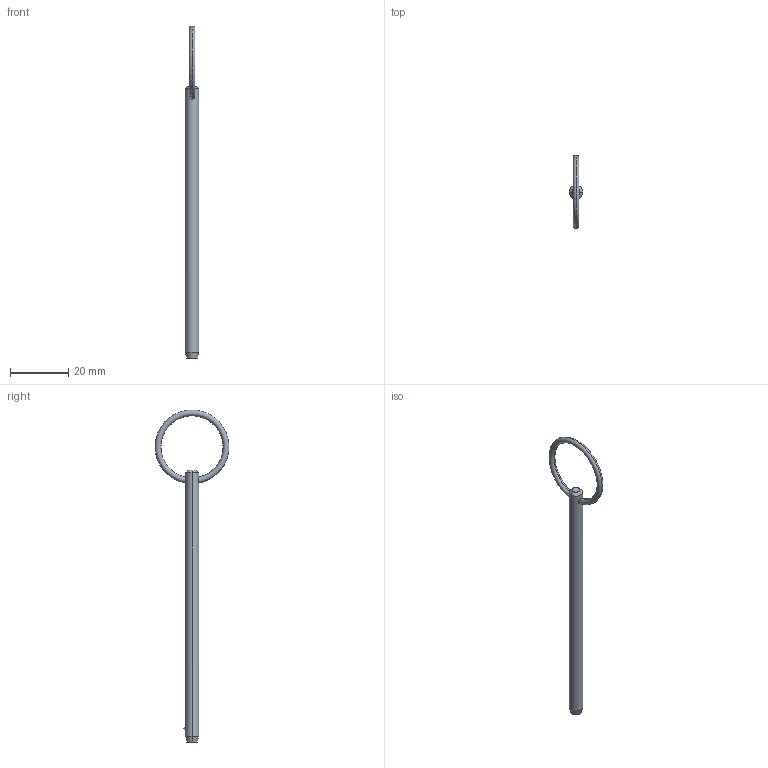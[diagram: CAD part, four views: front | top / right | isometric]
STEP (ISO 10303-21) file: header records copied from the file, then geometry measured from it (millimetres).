
FILE_DESCRIPTION (( 'STEP AP203' ), '1' );
FILE_NAME ('P1250.018-330.step', '2019-07-29T19:36:10', ( '' ), ( '' ), 'SwSTEP 2.0', 'SolidWorks 2017', '' );
FILE_SCHEMA (( 'CONFIG_CONTROL_DESIGN' ));
Length unit declared in the file: millimetre
Products named in the file (1): P1250.018-330
Bounding box: 4.76 x 25.4 x 114.28 mm (x, y, z)
Volume: 1868.5 mm3; surface area: 1843.2 mm2
Topology: 1 solids, 1 shells, 12 faces, 28 edges, 17 vertices
Faces by surface type: cone 4, torus 2, sphere 2, cylinder 2, plane 2
Entity records: 471 total; most frequent: CARTESIAN_POINT 138, DIRECTION 56, ORIENTED_EDGE 48, AXIS2_PLACEMENT_3D 25, EDGE_CURVE 24, VERTEX_POINT 15, EDGE_LOOP 15, FACE_OUTER_BOUND 12
